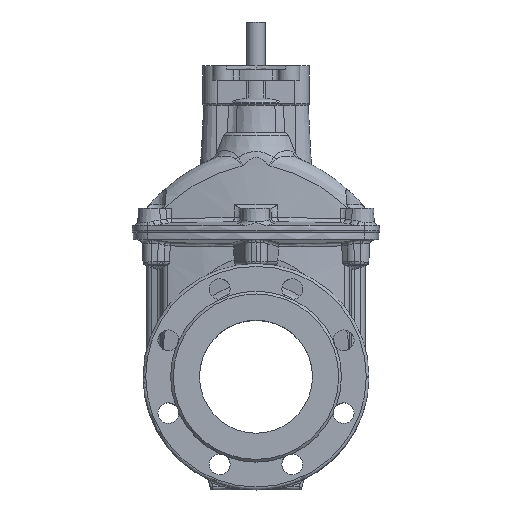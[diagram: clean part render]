
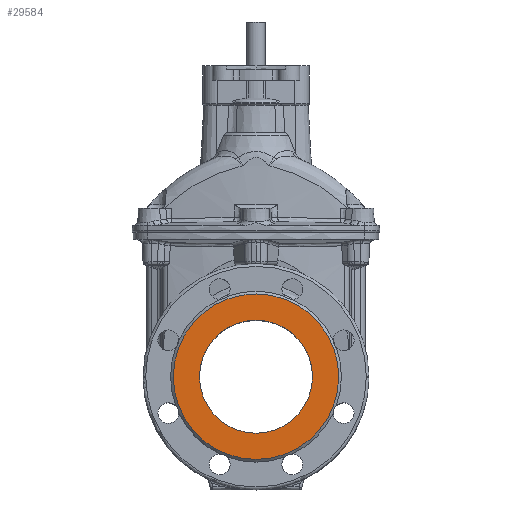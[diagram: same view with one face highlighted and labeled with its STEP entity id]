
A CAD part, top view. The second image highlights one B-rep face of the part: STEP entity #29584.
In plain terms, the highlighted planar face has unit normal (0, 0, 1).
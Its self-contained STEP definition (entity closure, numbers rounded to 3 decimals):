
#462 = ORIENTED_EDGE ( 'NONE', *, *, #5652, .T. ) ;
#707 = EDGE_LOOP ( 'NONE', ( #462 ) ) ;
#1797 = VERTEX_POINT ( 'NONE', #22693 ) ;
#2595 = AXIS2_PLACEMENT_3D ( 'NONE', #27057, #32435, #19629 ) ;
#2685 = EDGE_CURVE ( 'NONE', #1797, #1797, #22945, .T. ) ;
#4995 = ORIENTED_EDGE ( 'NONE', *, *, #2685, .T. ) ;
#5652 = EDGE_CURVE ( 'NONE', #6871, #6871, #13913, .T. ) ;
#6871 = VERTEX_POINT ( 'NONE', #20320 ) ;
#7862 = CARTESIAN_POINT ( 'NONE',  ( 0., -12.5, 100. ) ) ;
#8438 = AXIS2_PLACEMENT_3D ( 'NONE', #7862, #10911, #18139 ) ;
#10412 = DIRECTION ( 'NONE',  ( 0., -1., 0. ) ) ;
#10911 = DIRECTION ( 'NONE',  ( 0., 0., -1. ) ) ;
#11541 = EDGE_LOOP ( 'NONE', ( #4995 ) ) ;
#13913 = CIRCLE ( 'NONE', #2595, 91.5 ) ;
#16860 = AXIS2_PLACEMENT_3D ( 'NONE', #18332, #31124, #10412 ) ;
#18139 = DIRECTION ( 'NONE',  ( 0., 1., 0. ) ) ;
#18332 = CARTESIAN_POINT ( 'NONE',  ( 0., 50., 100. ) ) ;
#19629 = DIRECTION ( 'NONE',  ( 0., -1., 0. ) ) ;
#20320 = CARTESIAN_POINT ( 'NONE',  ( 0., -104., 100. ) ) ;
#22693 = CARTESIAN_POINT ( 'NONE',  ( 0., 50., 100. ) ) ;
#22945 = CIRCLE ( 'NONE', #8438, 62.5 ) ;
#26247 = FACE_OUTER_BOUND ( 'NONE', #707, .T. ) ;
#27057 = CARTESIAN_POINT ( 'NONE',  ( 0., -12.5, 100. ) ) ;
#28429 = FACE_BOUND ( 'NONE', #11541, .T. ) ;
#29584 = ADVANCED_FACE ( 'NONE', ( #28429, #26247 ), #31471, .T. ) ;
#31124 = DIRECTION ( 'NONE',  ( 0., 0., 1. ) ) ;
#31471 = PLANE ( 'NONE',  #16860 ) ;
#32435 = DIRECTION ( 'NONE',  ( 0., 0., 1. ) ) ;
